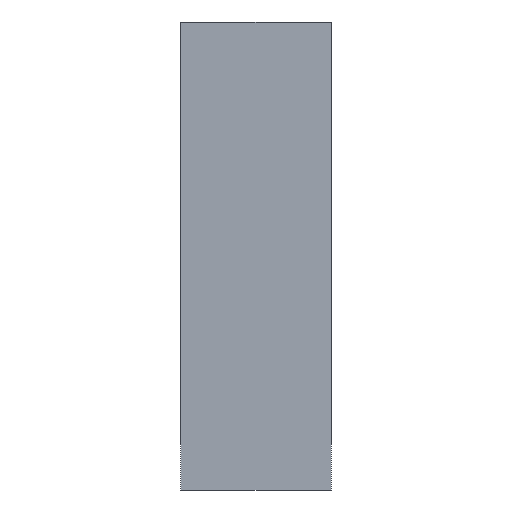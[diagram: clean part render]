
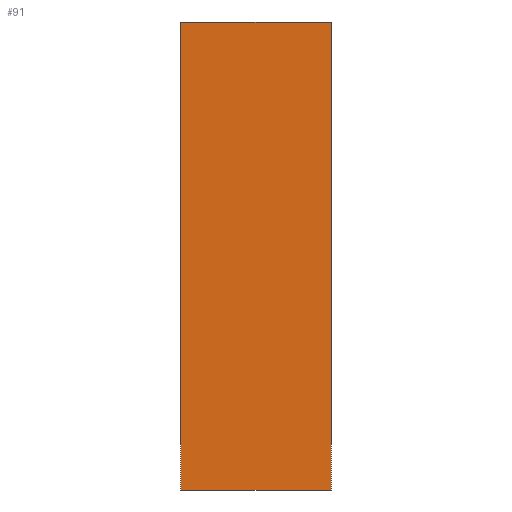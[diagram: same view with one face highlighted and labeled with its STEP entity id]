
A CAD part, front view. The second image highlights one B-rep face of the part: STEP entity #91.
In plain terms, the highlighted planar face has unit normal (0, -1, 0).
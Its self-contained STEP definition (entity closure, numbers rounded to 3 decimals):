
#11 = VECTOR ( 'NONE', #111, 1000. ) ;
#26 = VERTEX_POINT ( 'NONE', #329 ) ;
#31 = CARTESIAN_POINT ( 'NONE',  ( -27.15, -6., 2.6 ) ) ;
#50 = VECTOR ( 'NONE', #266, 1000. ) ;
#54 = VERTEX_POINT ( 'NONE', #270 ) ;
#74 = VERTEX_POINT ( 'NONE', #364 ) ;
#75 = LINE ( 'NONE', #131, #298 ) ;
#91 = ADVANCED_FACE ( 'NONE', ( #280 ), #187, .F. ) ;
#95 = EDGE_LOOP ( 'NONE', ( #362, #325, #228, #181 ) ) ;
#111 = DIRECTION ( 'NONE',  ( 0., 0., -1. ) ) ;
#114 = VECTOR ( 'NONE', #116, 1000. ) ;
#116 = DIRECTION ( 'NONE',  ( 1., 0., 0. ) ) ;
#131 = CARTESIAN_POINT ( 'NONE',  ( -27.15, -6., 8.8 ) ) ;
#152 = AXIS2_PLACEMENT_3D ( 'NONE', #170, #223, #252 ) ;
#162 = EDGE_CURVE ( 'NONE', #26, #74, #260, .T. ) ;
#164 = LINE ( 'NONE', #276, #11 ) ;
#170 = CARTESIAN_POINT ( 'NONE',  ( -27.15, -6., 3.2 ) ) ;
#181 = ORIENTED_EDGE ( 'NONE', *, *, #346, .T. ) ;
#187 = PLANE ( 'NONE',  #152 ) ;
#223 = DIRECTION ( 'NONE',  ( 0., 1., 0. ) ) ;
#228 = ORIENTED_EDGE ( 'NONE', *, *, #294, .F. ) ;
#240 = DIRECTION ( 'NONE',  ( 1., 0., 0. ) ) ;
#252 = DIRECTION ( 'NONE',  ( 0., 0., 1. ) ) ;
#260 = LINE ( 'NONE', #350, #50 ) ;
#266 = DIRECTION ( 'NONE',  ( 0., 0., -1. ) ) ;
#270 = CARTESIAN_POINT ( 'NONE',  ( -27.15, -6., 8.8 ) ) ;
#276 = CARTESIAN_POINT ( 'NONE',  ( -27.15, -6., 3.2 ) ) ;
#280 = FACE_OUTER_BOUND ( 'NONE', #95, .T. ) ;
#294 = EDGE_CURVE ( 'NONE', #54, #26, #75, .T. ) ;
#298 = VECTOR ( 'NONE', #240, 1000. ) ;
#317 = CARTESIAN_POINT ( 'NONE',  ( -27.15, -6., 2.6 ) ) ;
#325 = ORIENTED_EDGE ( 'NONE', *, *, #162, .F. ) ;
#329 = CARTESIAN_POINT ( 'NONE',  ( -25.15, -6., 8.8 ) ) ;
#336 = LINE ( 'NONE', #31, #114 ) ;
#346 = EDGE_CURVE ( 'NONE', #54, #349, #164, .T. ) ;
#349 = VERTEX_POINT ( 'NONE', #317 ) ;
#350 = CARTESIAN_POINT ( 'NONE',  ( -25.15, -6., 3.2 ) ) ;
#352 = EDGE_CURVE ( 'NONE', #349, #74, #336, .T. ) ;
#362 = ORIENTED_EDGE ( 'NONE', *, *, #352, .T. ) ;
#364 = CARTESIAN_POINT ( 'NONE',  ( -25.15, -6., 2.6 ) ) ;
